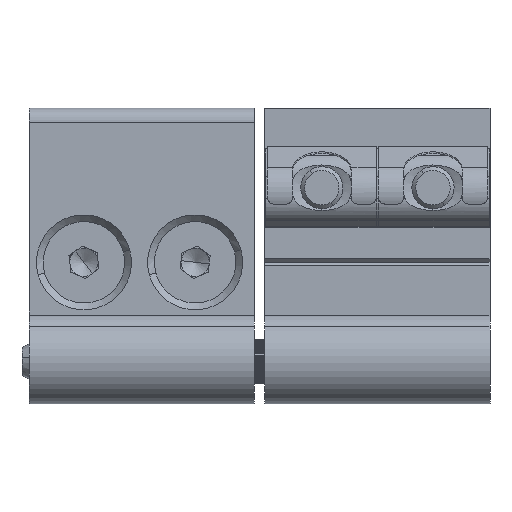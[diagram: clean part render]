
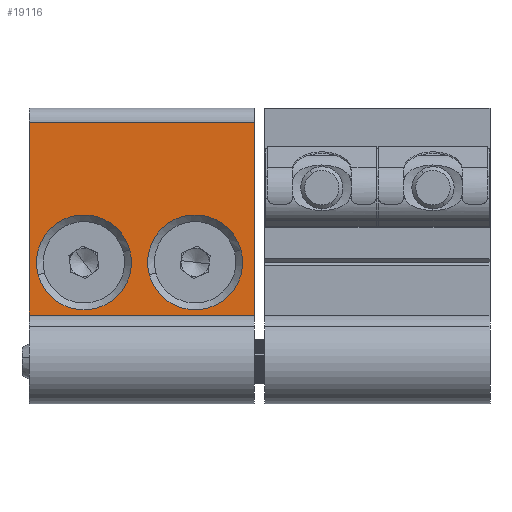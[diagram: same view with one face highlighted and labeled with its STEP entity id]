
A CAD part, front view. The second image highlights one B-rep face of the part: STEP entity #19116.
In plain terms, the highlighted planar face has unit normal (0, -1, 0).
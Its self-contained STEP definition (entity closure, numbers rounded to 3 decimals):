
#392 = LINE ( 'NONE', #3319, #3674 ) ;
#879 = EDGE_CURVE ( 'NONE', #4734, #2886, #18349, .T. ) ;
#1333 = PLANE ( 'NONE',  #19187 ) ;
#1456 = DIRECTION ( 'NONE',  ( -1., 0., 0. ) ) ;
#1510 = CARTESIAN_POINT ( 'NONE',  ( 599.564, 871.628, 1277.819 ) ) ;
#1737 = EDGE_CURVE ( 'NONE', #18022, #30755, #392, .T. ) ;
#2539 = EDGE_CURVE ( 'NONE', #30755, #8281, #18208, .T. ) ;
#2886 = VERTEX_POINT ( 'NONE', #28598 ) ;
#3020 = ORIENTED_EDGE ( 'NONE', *, *, #879, .F. ) ;
#3195 = EDGE_CURVE ( 'NONE', #30479, #29693, #30485, .T. ) ;
#3319 = CARTESIAN_POINT ( 'NONE',  ( 598.28, 871.628, 1299.48 ) ) ;
#3674 = VECTOR ( 'NONE', #18154, 1000. ) ;
#4192 = CARTESIAN_POINT ( 'NONE',  ( 606.08, 871.628, 1279.58 ) ) ;
#4334 = CIRCLE ( 'NONE', #22609, 6.75 ) ;
#4404 = CIRCLE ( 'NONE', #19024, 6.75 ) ;
#4724 = EDGE_CURVE ( 'NONE', #29693, #30479, #4334, .T. ) ;
#4734 = VERTEX_POINT ( 'NONE', #30815 ) ;
#5063 = EDGE_CURVE ( 'NONE', #8281, #7544, #9776, .T. ) ;
#5638 = ORIENTED_EDGE ( 'NONE', *, *, #5063, .T. ) ;
#6251 = DIRECTION ( 'NONE',  ( 0., -1., 0. ) ) ;
#6870 = DIRECTION ( 'NONE',  ( 0., -1., 0. ) ) ;
#7488 = AXIS2_PLACEMENT_3D ( 'NONE', #4192, #16624, #1456 ) ;
#7544 = VERTEX_POINT ( 'NONE', #26164 ) ;
#8201 = FACE_BOUND ( 'NONE', #10704, .T. ) ;
#8281 = VERTEX_POINT ( 'NONE', #22030 ) ;
#8346 = CARTESIAN_POINT ( 'NONE',  ( 621.88, 871.628, 1279.58 ) ) ;
#8434 = CARTESIAN_POINT ( 'NONE',  ( 630.28, 871.628, 1299.48 ) ) ;
#8613 = DIRECTION ( 'NONE',  ( -1., 0., 0. ) ) ;
#9776 = LINE ( 'NONE', #32037, #20339 ) ;
#10263 = CARTESIAN_POINT ( 'NONE',  ( 612.596, 871.628, 1281.341 ) ) ;
#10704 = EDGE_LOOP ( 'NONE', ( #3020, #18387 ) ) ;
#10731 = LINE ( 'NONE', #8434, #28304 ) ;
#10965 = DIRECTION ( 'NONE',  ( 1., 0., 0. ) ) ;
#11138 = FACE_OUTER_BOUND ( 'NONE', #12887, .T. ) ;
#11438 = DIRECTION ( 'NONE',  ( 0., -1., 0. ) ) ;
#12887 = EDGE_LOOP ( 'NONE', ( #25982, #5638, #23776, #29220 ) ) ;
#13080 = AXIS2_PLACEMENT_3D ( 'NONE', #8346, #20928, #10965 ) ;
#13555 = DIRECTION ( 'NONE',  ( 1., 0., 0. ) ) ;
#14990 = DIRECTION ( 'NONE',  ( 0., 0., 1. ) ) ;
#15724 = FACE_BOUND ( 'NONE', #18522, .T. ) ;
#16057 = CARTESIAN_POINT ( 'NONE',  ( 598.28, 871.628, 1299.48 ) ) ;
#16364 = VECTOR ( 'NONE', #28914, 1000. ) ;
#16408 = ORIENTED_EDGE ( 'NONE', *, *, #3195, .F. ) ;
#16490 = EDGE_CURVE ( 'NONE', #2886, #4734, #4404, .T. ) ;
#16624 = DIRECTION ( 'NONE',  ( 0., -1., 0. ) ) ;
#18022 = VERTEX_POINT ( 'NONE', #16057 ) ;
#18154 = DIRECTION ( 'NONE',  ( 0., 0., -1. ) ) ;
#18208 = LINE ( 'NONE', #28237, #16364 ) ;
#18349 = CIRCLE ( 'NONE', #13080, 6.75 ) ;
#18387 = ORIENTED_EDGE ( 'NONE', *, *, #16490, .F. ) ;
#18522 = EDGE_LOOP ( 'NONE', ( #16408, #28050 ) ) ;
#18970 = DIRECTION ( 'NONE',  ( 0., 0., -1. ) ) ;
#19024 = AXIS2_PLACEMENT_3D ( 'NONE', #21562, #11438, #13555 ) ;
#19116 = ADVANCED_FACE ( 'NONE', ( #8201, #15724, #11138 ), #1333, .T. ) ;
#19187 = AXIS2_PLACEMENT_3D ( 'NONE', #31431, #6870, #18970 ) ;
#20339 = VECTOR ( 'NONE', #14990, 1000. ) ;
#20928 = DIRECTION ( 'NONE',  ( 0., -1., 0. ) ) ;
#21562 = CARTESIAN_POINT ( 'NONE',  ( 621.88, 871.628, 1279.58 ) ) ;
#22030 = CARTESIAN_POINT ( 'NONE',  ( 630.28, 871.628, 1272.094 ) ) ;
#22609 = AXIS2_PLACEMENT_3D ( 'NONE', #28674, #6251, #23114 ) ;
#23114 = DIRECTION ( 'NONE',  ( -1., 0., 0. ) ) ;
#23776 = ORIENTED_EDGE ( 'NONE', *, *, #32112, .T. ) ;
#25982 = ORIENTED_EDGE ( 'NONE', *, *, #2539, .T. ) ;
#26164 = CARTESIAN_POINT ( 'NONE',  ( 630.28, 871.628, 1299.48 ) ) ;
#28050 = ORIENTED_EDGE ( 'NONE', *, *, #4724, .F. ) ;
#28237 = CARTESIAN_POINT ( 'NONE',  ( 598.28, 871.628, 1272.094 ) ) ;
#28304 = VECTOR ( 'NONE', #8613, 1000. ) ;
#28598 = CARTESIAN_POINT ( 'NONE',  ( 628.396, 871.628, 1281.341 ) ) ;
#28616 = CARTESIAN_POINT ( 'NONE',  ( 598.28, 871.628, 1272.094 ) ) ;
#28674 = CARTESIAN_POINT ( 'NONE',  ( 606.08, 871.628, 1279.58 ) ) ;
#28914 = DIRECTION ( 'NONE',  ( 1., 0., 0. ) ) ;
#29220 = ORIENTED_EDGE ( 'NONE', *, *, #1737, .T. ) ;
#29693 = VERTEX_POINT ( 'NONE', #10263 ) ;
#30479 = VERTEX_POINT ( 'NONE', #1510 ) ;
#30485 = CIRCLE ( 'NONE', #7488, 6.75 ) ;
#30755 = VERTEX_POINT ( 'NONE', #28616 ) ;
#30815 = CARTESIAN_POINT ( 'NONE',  ( 615.364, 871.628, 1277.819 ) ) ;
#31431 = CARTESIAN_POINT ( 'NONE',  ( 630.92, 871.628, 1285.787 ) ) ;
#32037 = CARTESIAN_POINT ( 'NONE',  ( 630.28, 871.628, 1272.094 ) ) ;
#32112 = EDGE_CURVE ( 'NONE', #7544, #18022, #10731, .T. ) ;
